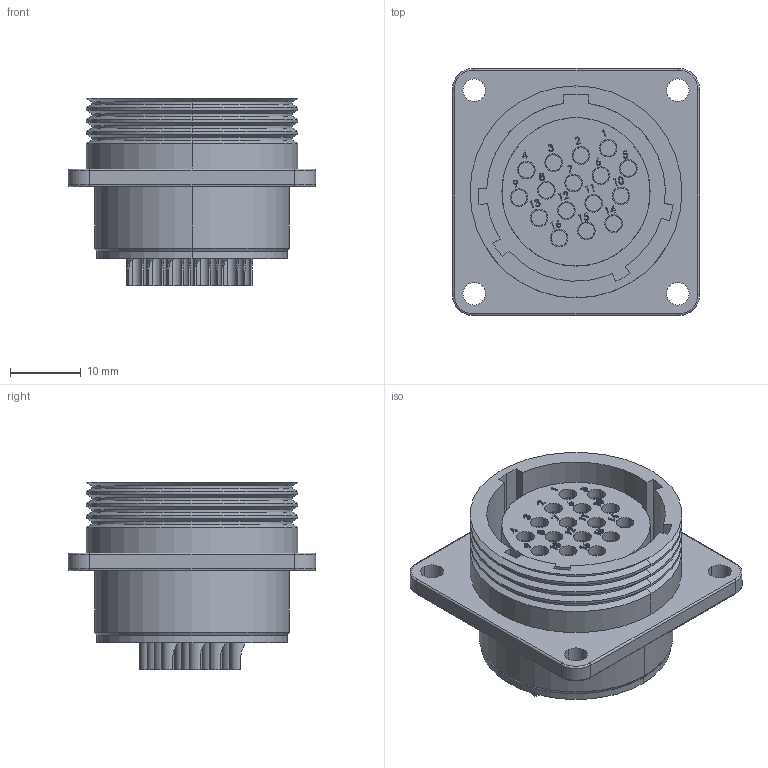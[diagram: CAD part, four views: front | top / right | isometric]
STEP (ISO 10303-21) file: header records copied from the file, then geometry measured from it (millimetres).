
FILE_DESCRIPTION (( 'STEP AP214' ), '1' );
FILE_NAME ('PLS-2816-RF-R.STEP', '2025-12-26T12:50:56', ( '' ), ( '' ), 'SwSTEP 2.0', 'SolidWorks 2021', '' );
FILE_SCHEMA (( 'AUTOMOTIVE_DESIGN' ));
Length unit declared in the file: millimetre
Products named in the file (1): PLS-2816-RF-R
Bounding box: 35 x 35 x 26.5 mm (x, y, z)
Volume: 11164.6 mm3; surface area: 16156.1 mm2
Topology: 20 solids, 20 shells, 1217 faces, 3003 edges, 1926 vertices
Faces by surface type: plane 486, cylinder 389, bspline 218, torus 74, cone 50
Entity records: 61781 total; most frequent: CARTESIAN_POINT 20445, ORIENTED_EDGE 5942, DIRECTION 5231, EDGE_CURVE 2971, VERTEX_POINT 1926, AXIS2_PLACEMENT_3D 1824, LINE 1583, VECTOR 1583
